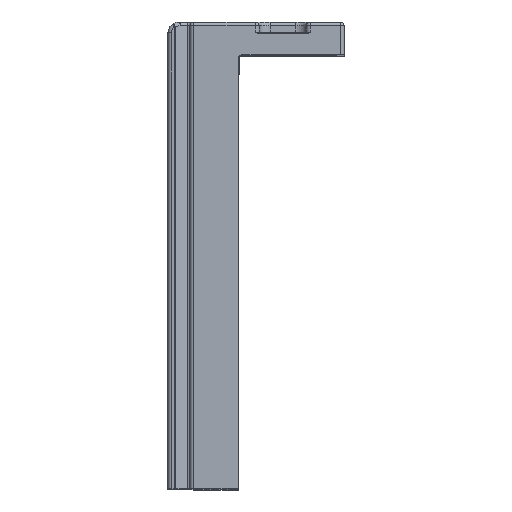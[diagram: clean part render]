
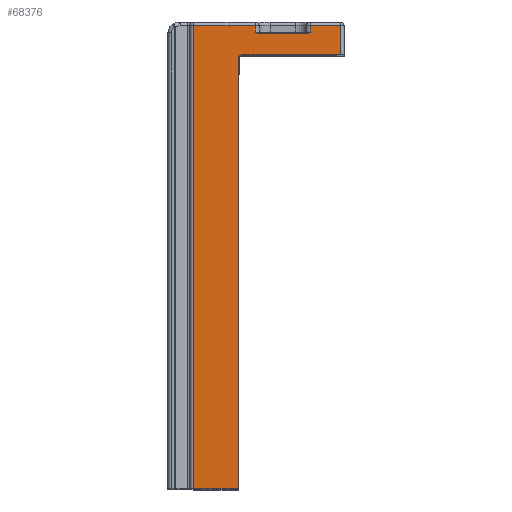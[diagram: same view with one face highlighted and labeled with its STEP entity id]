
A CAD part, top view. The second image highlights one B-rep face of the part: STEP entity #68376.
In plain terms, the highlighted planar face has unit normal (0, 0, 1).
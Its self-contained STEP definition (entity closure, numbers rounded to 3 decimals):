
#24588=DIRECTION('',(0.,-1.,0.));
#24589=VECTOR('',#24588,8.);
#24590=CARTESIAN_POINT('',(-126.2,46.,105.));
#24591=LINE('',#24590,#24589);
#24592=DIRECTION('',(1.,0.,0.));
#24593=VECTOR('',#24592,27.);
#24594=CARTESIAN_POINT('',(-153.2,38.,105.));
#24595=LINE('',#24594,#24593);
#24596=DIRECTION('',(0.,1.,0.));
#24597=VECTOR('',#24596,118.);
#24598=CARTESIAN_POINT('',(-154.2,-81.,105.));
#24599=LINE('',#24598,#24597);
#24600=DIRECTION('',(-1.,0.,0.));
#24601=VECTOR('',#24600,12.3);
#24602=CARTESIAN_POINT('',(-154.2,-81.,105.));
#24603=LINE('',#24602,#24601);
#24604=DIRECTION('',(0.,-1.,0.));
#24605=VECTOR('',#24604,127.);
#24606=CARTESIAN_POINT('',(-166.5,46.,105.));
#24607=LINE('',#24606,#24605);
#24608=DIRECTION('',(-1.,0.,0.));
#24609=VECTOR('',#24608,17.);
#24610=CARTESIAN_POINT('',(-149.5,46.,105.));
#24611=LINE('',#24610,#24609);
#24612=DIRECTION('',(0.,1.,0.));
#24613=VECTOR('',#24612,1.8);
#24614=CARTESIAN_POINT('',(-149.5,44.2,105.));
#24615=LINE('',#24614,#24613);
#24616=CARTESIAN_POINT('',(-149.202,44.,105.));
#24617=CARTESIAN_POINT('',(-149.166,43.978,
105.));
#24618=CARTESIAN_POINT('',(-149.095,43.938,
105.));
#24619=CARTESIAN_POINT('',(-148.992,43.888,
105.));
#24620=CARTESIAN_POINT('',(-148.893,43.85,
105.));
#24621=CARTESIAN_POINT('',(-148.796,43.822,
105.));
#24622=CARTESIAN_POINT('',(-148.702,43.804,
105.));
#24623=CARTESIAN_POINT('',(-148.638,43.8,
105.));
#24624=CARTESIAN_POINT('',(-148.606,43.8,
105.));
#24626=DIRECTION('',(1.,0.,0.));
#24627=VECTOR('',#24626,13.211);
#24628=CARTESIAN_POINT('',(-148.606,43.8,
105.));
#24629=LINE('',#24628,#24627);
#24630=CARTESIAN_POINT('',(-135.394,43.8,105.));
#24631=CARTESIAN_POINT('',(-135.35,43.8,
105.));
#24632=CARTESIAN_POINT('',(-135.262,43.808,
105.));
#24633=CARTESIAN_POINT('',(-135.13,43.841,
105.));
#24634=CARTESIAN_POINT('',(-135.01,43.887,
105.));
#24635=CARTESIAN_POINT('',(-134.9,43.941,
105.));
#24636=CARTESIAN_POINT('',(-134.831,43.98,
105.));
#24637=CARTESIAN_POINT('',(-134.798,44.,
105.));
#24639=DIRECTION('',(0.,-1.,0.));
#24640=VECTOR('',#24639,1.8);
#24641=CARTESIAN_POINT('',(-134.5,46.,105.));
#24642=LINE('',#24641,#24640);
#24643=DIRECTION('',(-1.,0.,0.));
#24644=VECTOR('',#24643,8.3);
#24645=CARTESIAN_POINT('',(-126.2,46.,105.));
#24646=LINE('',#24645,#24644);
#24730=CARTESIAN_POINT('',(-134.5,44.2,105.));
#24737=CARTESIAN_POINT('',(-134.798,44.,
105.));
#24738=CARTESIAN_POINT('',(-134.768,44.018,
105.));
#24739=CARTESIAN_POINT('',(-134.707,44.057,
105.));
#24740=CARTESIAN_POINT('',(-134.608,44.123,
105.));
#24741=CARTESIAN_POINT('',(-134.537,44.174,
105.));
#24742=CARTESIAN_POINT('',(-134.5,44.2,105.));
#25419=CARTESIAN_POINT('',(-153.2,37.,105.));
#25420=DIRECTION('',(0.,0.,-1.));
#25421=DIRECTION('',(-1.,0.,0.));
#25422=AXIS2_PLACEMENT_3D('',#25419,#25420,#25421);
#25492=CARTESIAN_POINT('',(-149.5,44.2,105.));
#25494=CARTESIAN_POINT('',(-149.5,44.2,105.));
#25495=CARTESIAN_POINT('',(-149.471,44.18,
105.));
#25496=CARTESIAN_POINT('',(-149.411,44.137,
105.));
#25497=CARTESIAN_POINT('',(-149.305,44.064,
105.));
#25498=CARTESIAN_POINT('',(-149.237,44.021,
105.));
#25499=CARTESIAN_POINT('',(-149.202,44.,105.));
#30589=CARTESIAN_POINT('',(-154.2,-81.,105.));
#30590=VERTEX_POINT('',#30589);
#31583=CARTESIAN_POINT('',(-134.5,46.,105.));
#31584=VERTEX_POINT('',#31583);
#31587=VERTEX_POINT('',#25492);
#31588=VERTEX_POINT('',#24730);
#31799=CARTESIAN_POINT('',(-166.5,-81.,105.));
#31801=VERTEX_POINT('',#31799);
#31881=CARTESIAN_POINT('',(-166.5,46.,105.));
#31882=VERTEX_POINT('',#31881);
#31895=CARTESIAN_POINT('',(-149.5,46.,105.));
#31896=VERTEX_POINT('',#31895);
#31900=CARTESIAN_POINT('',(-153.2,38.,105.));
#31902=VERTEX_POINT('',#31900);
#31904=CARTESIAN_POINT('',(-154.2,37.,105.));
#31906=VERTEX_POINT('',#31904);
#33378=CARTESIAN_POINT('',(-126.2,38.,105.));
#33380=VERTEX_POINT('',#33378);
#33381=CARTESIAN_POINT('',(-126.2,46.,105.));
#33382=VERTEX_POINT('',#33381);
#37175=CARTESIAN_POINT('',(-148.606,43.8,
105.));
#37176=CARTESIAN_POINT('',(-135.394,43.8,105.));
#37177=VERTEX_POINT('',#37175);
#37178=VERTEX_POINT('',#37176);
#37179=VERTEX_POINT('',#24616);
#37180=VERTEX_POINT('',#24637);
#68343=CARTESIAN_POINT('',(0.,0.,105.));
#68344=DIRECTION('',(0.,0.,1.));
#68345=DIRECTION('',(1.,0.,0.));
#68346=AXIS2_PLACEMENT_3D('',#68343,#68344,#68345);
#68347=PLANE('',#68346);
#68349=ORIENTED_EDGE('',*,*,#68348,.T.);
#68350=ORIENTED_EDGE('',*,*,#38733,.F.);
#68352=ORIENTED_EDGE('',*,*,#68351,.F.);
#68354=ORIENTED_EDGE('',*,*,#68353,.F.);
#68355=ORIENTED_EDGE('',*,*,#41293,.T.);
#68357=ORIENTED_EDGE('',*,*,#68356,.F.);
#68359=ORIENTED_EDGE('',*,*,#68358,.F.);
#68361=ORIENTED_EDGE('',*,*,#68360,.F.);
#68363=ORIENTED_EDGE('',*,*,#68362,.T.);
#68364=ORIENTED_EDGE('',*,*,#68322,.T.);
#68365=ORIENTED_EDGE('',*,*,#68334,.T.);
#68367=ORIENTED_EDGE('',*,*,#68366,.T.);
#68369=ORIENTED_EDGE('',*,*,#68368,.T.);
#68371=ORIENTED_EDGE('',*,*,#68370,.F.);
#68373=ORIENTED_EDGE('',*,*,#68372,.F.);
#68374=EDGE_LOOP('',(#68349,#68350,#68352,#68354,#68355,#68357,#68359,#68361,
#68363,#68364,#68365,#68367,#68369,#68371,#68373));
#68375=FACE_OUTER_BOUND('',#68374,.F.);
#68376=ADVANCED_FACE('',(#68375),#68347,.T.);
#24625=B_SPLINE_CURVE_WITH_KNOTS('',3,(#24616,#24617,#24618,#24619,#24620,
#24621,#24622,#24623,#24624),.UNSPECIFIED.,.F.,.F.,(4,1,1,1,1,1,4),(0.,
0.167,0.333,0.5,0.667,0.833,
1.),.UNSPECIFIED.);
#24638=B_SPLINE_CURVE_WITH_KNOTS('',3,(#24630,#24631,#24632,#24633,#24634,
#24635,#24636,#24637),.UNSPECIFIED.,.F.,.F.,(4,1,1,1,1,4),(0.,0.2,0.4,
0.6,0.8,1.),.UNSPECIFIED.);
#24743=B_SPLINE_CURVE_WITH_KNOTS('',3,(#24737,#24738,#24739,#24740,#24741,
#24742),.UNSPECIFIED.,.F.,.F.,(4,1,1,4),(0.,0.333,
0.667,1.),.UNSPECIFIED.);
#25423=CIRCLE('',#25422,1.);
#25500=B_SPLINE_CURVE_WITH_KNOTS('',3,(#25494,#25495,#25496,#25497,#25498,
#25499),.UNSPECIFIED.,.F.,.F.,(4,1,1,4),(0.,0.333,
0.667,1.),.UNSPECIFIED.);
#38733=EDGE_CURVE('',#31902,#33380,#24595,.T.);
#41293=EDGE_CURVE('',#30590,#31801,#24603,.T.);
#68322=EDGE_CURVE('',#37179,#37177,#24625,.T.);
#68334=EDGE_CURVE('',#37177,#37178,#24629,.T.);
#68348=EDGE_CURVE('',#33382,#33380,#24591,.T.);
#68351=EDGE_CURVE('',#31906,#31902,#25423,.T.);
#68353=EDGE_CURVE('',#30590,#31906,#24599,.T.);
#68356=EDGE_CURVE('',#31882,#31801,#24607,.T.);
#68358=EDGE_CURVE('',#31896,#31882,#24611,.T.);
#68360=EDGE_CURVE('',#31587,#31896,#24615,.T.);
#68362=EDGE_CURVE('',#31587,#37179,#25500,.T.);
#68366=EDGE_CURVE('',#37178,#37180,#24638,.T.);
#68368=EDGE_CURVE('',#37180,#31588,#24743,.T.);
#68370=EDGE_CURVE('',#31584,#31588,#24642,.T.);
#68372=EDGE_CURVE('',#33382,#31584,#24646,.T.);
